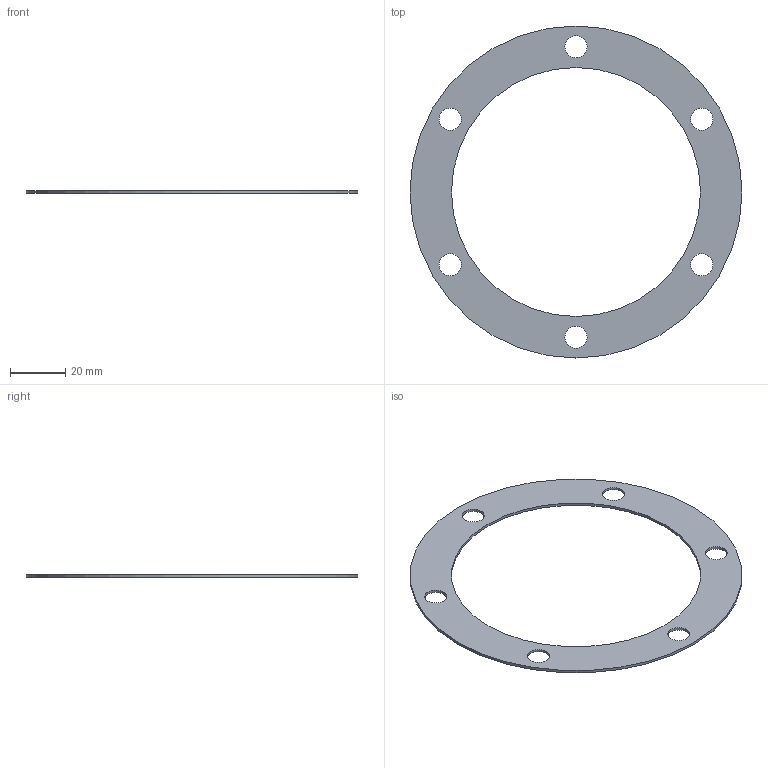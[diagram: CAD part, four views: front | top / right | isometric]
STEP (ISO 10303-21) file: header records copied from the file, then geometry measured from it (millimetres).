
FILE_DESCRIPTION(/* description */ (''),/* implementation_level */ '2;1');
FILE_NAME(/* name */ 'G:\YandexDisk\Работа\Inventor\Универ\ОАП\Лабораторные работы\ЛР6 Создание сборок\Редуктор\stp\Прокладка 5.stp',/* time_stamp */ '2023-11-17T06:36:36+03:00',/* author */ ('34740'),/* organization */ (''),/* preprocessor_version */ 'ST-DEVELOPER v18.1',/* originating_system */ 'Autodesk Inventor 2022',/* authorisation */ '');
FILE_SCHEMA (('AUTOMOTIVE_DESIGN { 1 0 10303 214 3 1 1 }'));
Length unit declared in the file: millimetre
Products named in the file (1): Прокладка 5
Bounding box: 120 x 120 x 1 mm (x, y, z)
Volume: 4646.4 mm3; surface area: 10103.4 mm2
Topology: 1 solids, 1 shells, 10 faces, 24 edges, 16 vertices
Faces by surface type: cylinder 8, plane 2
Full cylindrical faces by diameter (mm): 8 x6, 90 x1, 120 x1
Entity records: 373 total; most frequent: DIRECTION 62, CARTESIAN_POINT 51, ORIENTED_EDGE 48, AXIS2_PLACEMENT_3D 27, EDGE_LOOP 24, EDGE_CURVE 24, CIRCLE 16, VERTEX_POINT 16
